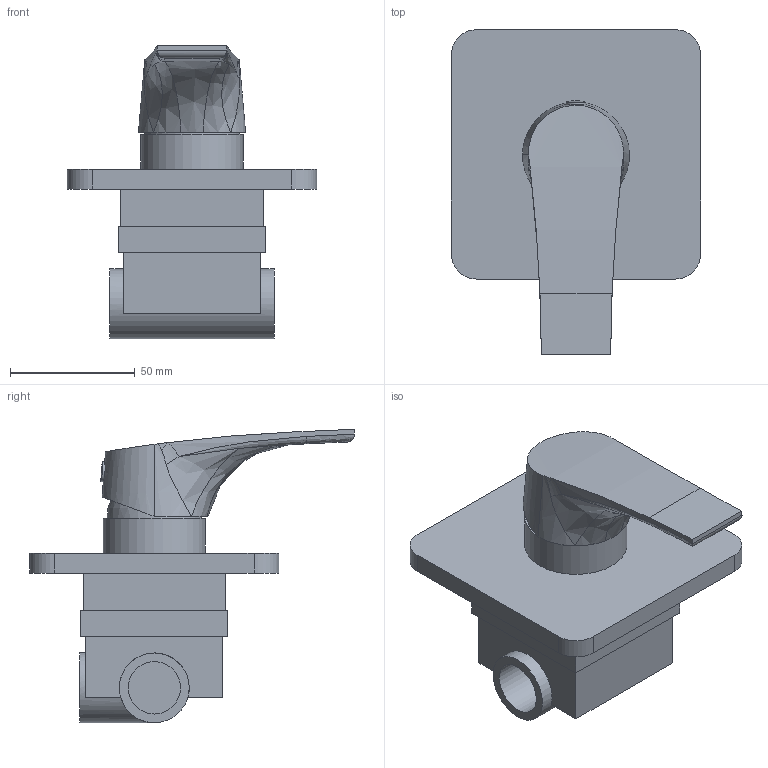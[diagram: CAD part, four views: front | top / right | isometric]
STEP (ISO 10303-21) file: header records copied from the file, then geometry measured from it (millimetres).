
FILE_DESCRIPTION(/* description */ ('SIGMA Bateria natryskowa podtynkowa'),/* implementation_level */ '2;1');
FILE_NAME(/* name */ 'C:\Nextcloud\02_biblioteki_cad\Valvex\Projekt\PROJECTS\Eksport\ETAP 4\2456160\2456160.stp',/* time_stamp */ '2021-08-09T10:49:52+02:00',/* author */ ('Cadventure'),/* organization */ (''),/* preprocessor_version */ 'ST-DEVELOPER v18.1',/* originating_system */ 'Autodesk Inventor 2020',/* authorisation */ '');
FILE_SCHEMA (('AUTOMOTIVE_DESIGN { 1 0 10303 214 3 1 1 }'));
Length unit declared in the file: millimetre
Products named in the file (1): 2456160
Bounding box: 100 x 130.25 x 117.71 mm (x, y, z)
Volume: 328618.4 mm3; surface area: 60229.2 mm2
Topology: 3 solids, 3 shells, 73 faces, 184 edges, 124 vertices
Faces by surface type: plane 38, cylinder 18, bspline 16, sphere 1
Full cylindrical faces by diameter (mm): 6 x2, 8 x1, 21 x3, 28 x2, 41 x1
Entity records: 3074 total; most frequent: CARTESIAN_POINT 1229, ORIENTED_EDGE 362, DIRECTION 335, EDGE_CURVE 181, AXIS2_PLACEMENT_3D 128, VERTEX_POINT 124, EDGE_LOOP 83, LINE 79
